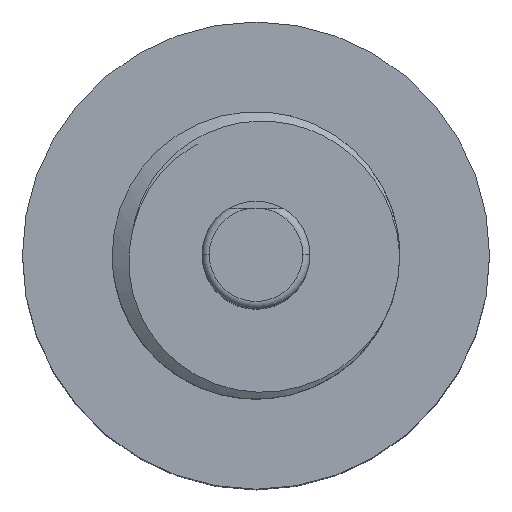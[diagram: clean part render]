
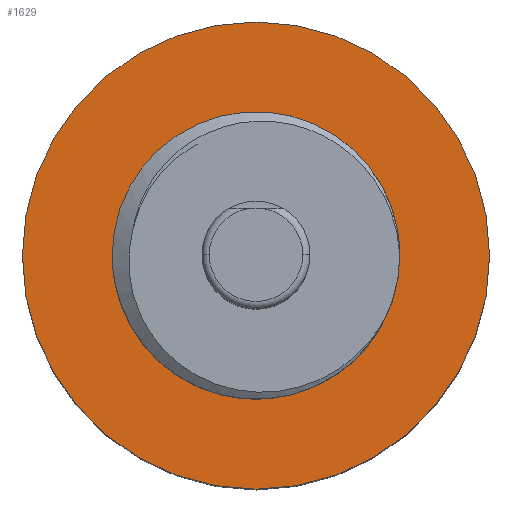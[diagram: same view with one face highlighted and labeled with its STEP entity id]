
A CAD part, top view. The second image highlights one B-rep face of the part: STEP entity #1629.
In plain terms, the highlighted planar face has unit normal (0, 0, 1).
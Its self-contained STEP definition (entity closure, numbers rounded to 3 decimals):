
#52 = CARTESIAN_POINT ( 'NONE',  ( 6.5, 0., -13.9 ) ) ;
#145 = CARTESIAN_POINT ( 'NONE',  ( 3.333, 0., -13.9 ) ) ;
#188 = AXIS2_PLACEMENT_3D ( 'NONE', #1478, #449, #193 ) ;
#193 = DIRECTION ( 'NONE',  ( -1., 0., 0. ) ) ;
#222 = AXIS2_PLACEMENT_3D ( 'NONE', #1569, #777, #538 ) ;
#230 = ORIENTED_EDGE ( 'NONE', *, *, #1117, .T. ) ;
#253 = CARTESIAN_POINT ( 'NONE',  ( 0., 0., -13.9 ) ) ;
#330 = CARTESIAN_POINT ( 'NONE',  ( 0., 0., -13.9 ) ) ;
#365 = DIRECTION ( 'NONE',  ( 0., 0., -1. ) ) ;
#402 = AXIS2_PLACEMENT_3D ( 'NONE', #330, #1605, #836 ) ;
#449 = DIRECTION ( 'NONE',  ( 0., 0., -1. ) ) ;
#490 = CIRCLE ( 'NONE', #1286, 3.333 ) ;
#527 = VERTEX_POINT ( 'NONE', #52 ) ;
#538 = DIRECTION ( 'NONE',  ( -1., 0., 0. ) ) ;
#593 = VERTEX_POINT ( 'NONE', #1131 ) ;
#676 = DIRECTION ( 'NONE',  ( -1., 0., 0. ) ) ;
#777 = DIRECTION ( 'NONE',  ( 0., 0., -1. ) ) ;
#836 = DIRECTION ( 'NONE',  ( -1., 0., 0. ) ) ;
#841 = AXIS2_PLACEMENT_3D ( 'NONE', #253, #365, #1025 ) ;
#933 = EDGE_LOOP ( 'NONE', ( #1358, #990 ) ) ;
#970 = FACE_OUTER_BOUND ( 'NONE', #933, .T. ) ;
#990 = ORIENTED_EDGE ( 'NONE', *, *, #1637, .F. ) ;
#1025 = DIRECTION ( 'NONE',  ( -1., 0., 0. ) ) ;
#1071 = ORIENTED_EDGE ( 'NONE', *, *, #1489, .T. ) ;
#1076 = CIRCLE ( 'NONE', #841, 6.5 ) ;
#1081 = FACE_BOUND ( 'NONE', #1171, .T. ) ;
#1098 = CIRCLE ( 'NONE', #222, 3.333 ) ;
#1117 = EDGE_CURVE ( 'NONE', #1161, #593, #1098, .T. ) ;
#1118 = CIRCLE ( 'NONE', #402, 6.5 ) ;
#1131 = CARTESIAN_POINT ( 'NONE',  ( -3.333, 0., -13.9 ) ) ;
#1161 = VERTEX_POINT ( 'NONE', #145 ) ;
#1171 = EDGE_LOOP ( 'NONE', ( #1071, #230 ) ) ;
#1219 = CARTESIAN_POINT ( 'NONE',  ( -6.5, 0., -13.9 ) ) ;
#1259 = EDGE_CURVE ( 'NONE', #1663, #527, #1076, .T. ) ;
#1286 = AXIS2_PLACEMENT_3D ( 'NONE', #1307, #1578, #676 ) ;
#1307 = CARTESIAN_POINT ( 'NONE',  ( 0., 0., -13.9 ) ) ;
#1358 = ORIENTED_EDGE ( 'NONE', *, *, #1259, .F. ) ;
#1478 = CARTESIAN_POINT ( 'NONE',  ( 0., -3.333, -13.9 ) ) ;
#1486 = PLANE ( 'NONE',  #188 ) ;
#1489 = EDGE_CURVE ( 'NONE', #593, #1161, #490, .T. ) ;
#1569 = CARTESIAN_POINT ( 'NONE',  ( 0., 0., -13.9 ) ) ;
#1578 = DIRECTION ( 'NONE',  ( 0., 0., -1. ) ) ;
#1605 = DIRECTION ( 'NONE',  ( 0., 0., -1. ) ) ;
#1629 = ADVANCED_FACE ( 'NONE', ( #970, #1081 ), #1486, .F. ) ;
#1637 = EDGE_CURVE ( 'NONE', #527, #1663, #1118, .T. ) ;
#1663 = VERTEX_POINT ( 'NONE', #1219 ) ;
